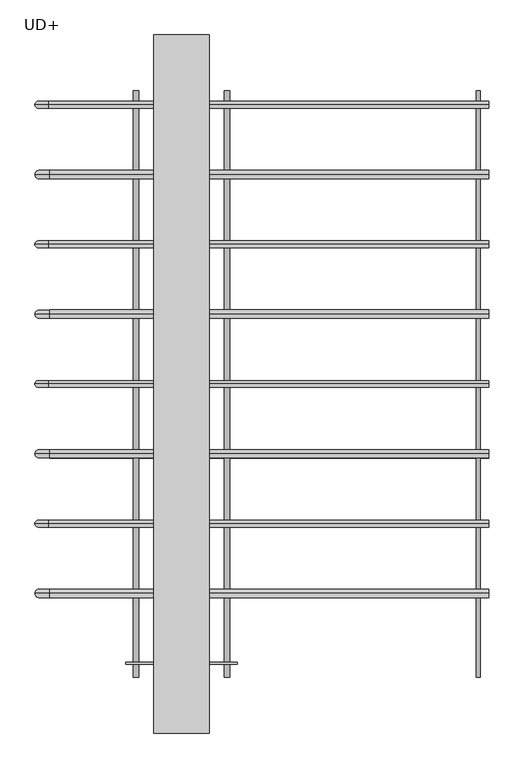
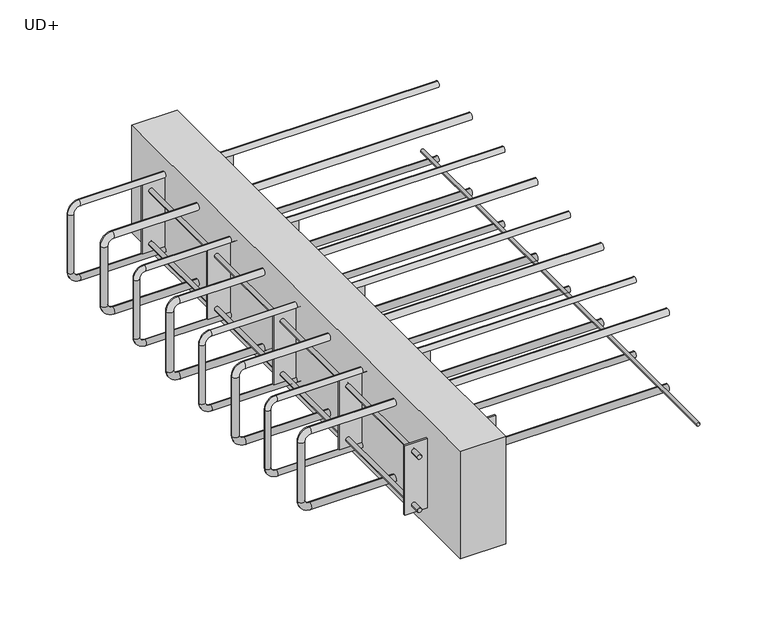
"""IFC4 building model written with IfcOpenShell, lengths in millimetres: proxy geometry, ACINOXplus_Typenreihe_Ux-Ox : UD+."""

from ifc_helpers import new_model, si_unit, point, frame, frame_2d, origin, place, context, project, spatial, polyline, circle_curve, ellipse_curve, trimmed, segment, composite_curve, outline, extrude, source, transform, mapped, element, save
from ifc_brep_helpers import plane_surface, cylinder_surface, revolved_surface, advanced_brep


def ud_d1303a2f(model_context):
    return source(origin(), model_context, "Body", "SolidModel", [
        advanced_brep(
        [(440.0, 100.0, -23.5), (440.0, 100.0, -35.5), (-189.0, 100.0, -23.5), (-189.0, 100.0, -35.5), (-198.0, 100.0, -44.5), (-210.0, 100.0, -44.5), (-210.0, 100.0, -155.5), (-198.0, 100.0, -155.5), (-189.0, 100.0, -164.5), (-189.0, 100.0, -176.5), (440.0, 100.0, -176.5), (440.0, 100.0, -164.5)],
        [
            (0, 1, circle_curve(frame((440.0, 100.0, -29.5), z_axis=(1.0, 0.0, 0.0), x_axis=(0.0, 0.0, -1.0)), 6.0)),
            (1, 0, circle_curve(frame((440.0, 100.0, -29.5), z_axis=(1.0, 0.0, 0.0), x_axis=(0.0, 0.0, -1.0)), 6.0)),
            (0, 2),
            (2, 3, circle_curve(frame((-189.0, 100.0, -29.5), z_axis=(1.0, 0.0, 0.0), x_axis=(0.0, 0.0, -1.0)), 6.0)),
            (3, 1),
            (3, 2, circle_curve(frame((-189.0, 100.0, -29.5), z_axis=(1.0, 0.0, 0.0), x_axis=(0.0, 0.0, -1.0)), 6.0)),
            (4, 3, circle_curve(frame((-189.0, 100.0, -44.5), z_axis=(0.0, 1.0, 0.0), x_axis=(0.0, 0.0, 1.0)), 9.0)),
            (2, 5, circle_curve(frame((-189.0, 100.0, -44.5), z_axis=(0.0, -1.0, 0.0), x_axis=(0.0, 0.0, 1.0)), 21.0)),
            (5, 4, circle_curve(frame((-204.0, 100.0, -44.5), z_axis=(0.0, 0.0, 1.0), x_axis=(1.0, 0.0, 0.0)), 6.0)),
            (4, 5, circle_curve(frame((-204.0, 100.0, -44.5), z_axis=(0.0, 0.0, 1.0), x_axis=(1.0, 0.0, 0.0)), 6.0)),
            (5, 6),
            (6, 7, circle_curve(frame((-204.0, 100.0, -155.5), z_axis=(0.0, 0.0, 1.0), x_axis=(1.0, 0.0, 0.0)), 6.0)),
            (7, 4),
            (7, 6, circle_curve(frame((-204.0, 100.0, -155.5), z_axis=(0.0, 0.0, 1.0), x_axis=(1.0, 0.0, 0.0)), 6.0)),
            (8, 7, circle_curve(frame((-189.0, 100.0, -155.5), z_axis=(0.0, 1.0, 0.0), x_axis=(-1.0, 0.0, 0.0)), 9.0)),
            (6, 9, circle_curve(frame((-189.0, 100.0, -155.5), z_axis=(0.0, -1.0, 0.0), x_axis=(-1.0, 0.0, 0.0)), 21.0)),
            (9, 8, circle_curve(frame((-189.0, 100.0, -170.5), z_axis=(-1.0, 0.0, 0.0), x_axis=(0.0, 0.0, 1.0)), 6.0)),
            (8, 9, circle_curve(frame((-189.0, 100.0, -170.5), z_axis=(-1.0, 0.0, 0.0), x_axis=(0.0, 0.0, 1.0)), 6.0)),
            (10, 11, circle_curve(frame((440.0, 100.0, -170.5), z_axis=(1.0, 0.0, 0.0), x_axis=(0.0, 0.0, 1.0)), 6.0)),
            (11, 10, circle_curve(frame((440.0, 100.0, -170.5), z_axis=(1.0, 0.0, 0.0), x_axis=(0.0, 0.0, 1.0)), 6.0)),
            (9, 10),
            (11, 8),
        ],
        [
            plane_surface(frame((440.0, 100.0, -29.5), z_axis=(1.0, 0.0, 0.0), x_axis=(0.0, -1.0, 0.0))),
            cylinder_surface(frame((440.0, 100.0, -29.5), z_axis=(1.0, 0.0, 0.0), x_axis=(0.0, 0.0, -1.0)), 6.0),
            revolved_surface(trimmed(ellipse_curve(frame((-189.0, 100.0, -29.5), z_axis=(1.0, 0.0, 0.0), x_axis=(0.0, 0.0, -1.0)), 6.0, 6.0), [point((-189.0, 100.0, -23.5))], [point((-189.0, 100.0, -35.5))], True, "CARTESIAN"), (-189.0, 100.0, -44.5), (0.0, -1.0, 0.0)),
            revolved_surface(trimmed(ellipse_curve(frame((-189.0, 100.0, -29.5), z_axis=(1.0, 0.0, 0.0), x_axis=(0.0, 0.0, -1.0)), 6.0, 6.0), [point((-189.0, 100.0, -35.5))], [point((-189.0, 100.0, -23.5))], True, "CARTESIAN"), (-189.0, 100.0, -44.5), (0.0, -1.0, 0.0)),
            cylinder_surface(frame((-204.0, 100.0, -44.5), z_axis=(0.0, 0.0, 1.0), x_axis=(1.0, 0.0, 0.0)), 6.0),
            revolved_surface(trimmed(ellipse_curve(frame((-204.0, 100.0, -155.5), z_axis=(0.0, 0.0, 1.0), x_axis=(1.0, 0.0, 0.0)), 6.0, 6.0), [point((-210.0, 100.0, -155.5))], [point((-198.0, 100.0, -155.5))], True, "CARTESIAN"), (-189.0, 100.0, -155.5), (0.0, -1.0, 0.0)),
            revolved_surface(trimmed(ellipse_curve(frame((-204.0, 100.0, -155.5), z_axis=(0.0, 0.0, 1.0), x_axis=(1.0, 0.0, 0.0)), 6.0, 6.0), [point((-198.0, 100.0, -155.5))], [point((-210.0, 100.0, -155.5))], True, "CARTESIAN"), (-189.0, 100.0, -155.5), (0.0, -1.0, 0.0)),
            plane_surface(frame((440.0, 100.0, -170.5), z_axis=(1.0, 0.0, 0.0), x_axis=(0.0, -1.0, 0.0))),
            cylinder_surface(frame((-189.0, 100.0, -170.5), z_axis=(-1.0, 0.0, 0.0), x_axis=(0.0, 0.0, 1.0)), 6.0),
        ],
        [
            (0, [[1, 2]]),
            (1, [[-1, 3, 4, 5]]),
            (1, [[-2, -5, 6, -3]]),
            (2, [[7, -4, 8, 9]]),
            (3, [[-8, -6, -7, 10]]),
            (4, [[-9, 11, 12, 13]]),
            (4, [[-10, -13, 14, -11]]),
            (5, [[15, -12, 16, 17]]),
            (6, [[-16, -14, -15, 18]]),
            (7, [[19, 20]]),
            (8, [[-17, 21, -20, 22]]),
            (8, [[-18, -22, -19, -21]]),
        ],
    ),
        advanced_brep(
        [(440.0, -100.0, -23.5), (440.0, -100.0, -35.5), (-189.0, -100.0, -23.5), (-189.0, -100.0, -35.5), (-198.0, -100.0, -44.5), (-210.0, -100.0, -44.5), (-210.0, -100.0, -155.5), (-198.0, -100.0, -155.5), (-189.0, -100.0, -164.5), (-189.0, -100.0, -176.5), (440.0, -100.0, -176.5), (440.0, -100.0, -164.5)],
        [
            (0, 1, circle_curve(frame((440.0, -100.0, -29.5), z_axis=(1.0, 0.0, 0.0), x_axis=(0.0, 0.0, -1.0)), 6.0)),
            (1, 0, circle_curve(frame((440.0, -100.0, -29.5), z_axis=(1.0, 0.0, 0.0), x_axis=(0.0, 0.0, -1.0)), 6.0)),
            (0, 2),
            (2, 3, circle_curve(frame((-189.0, -100.0, -29.5), z_axis=(1.0, 0.0, 0.0), x_axis=(0.0, 0.0, -1.0)), 6.0)),
            (3, 1),
            (3, 2, circle_curve(frame((-189.0, -100.0, -29.5), z_axis=(1.0, 0.0, 0.0), x_axis=(0.0, 0.0, -1.0)), 6.0)),
            (4, 3, circle_curve(frame((-189.0, -100.0, -44.5), z_axis=(0.0, 1.0, 0.0), x_axis=(0.0, 0.0, 1.0)), 9.0)),
            (2, 5, circle_curve(frame((-189.0, -100.0, -44.5), z_axis=(0.0, -1.0, 0.0), x_axis=(0.0, 0.0, 1.0)), 21.0)),
            (5, 4, circle_curve(frame((-204.0, -100.0, -44.5), z_axis=(0.0, 0.0, 1.0), x_axis=(1.0, 0.0, 0.0)), 6.0)),
            (4, 5, circle_curve(frame((-204.0, -100.0, -44.5), z_axis=(0.0, 0.0, 1.0), x_axis=(1.0, 0.0, 0.0)), 6.0)),
            (5, 6),
            (6, 7, circle_curve(frame((-204.0, -100.0, -155.5), z_axis=(0.0, 0.0, 1.0), x_axis=(1.0, 0.0, 0.0)), 6.0)),
            (7, 4),
            (7, 6, circle_curve(frame((-204.0, -100.0, -155.5), z_axis=(0.0, 0.0, 1.0), x_axis=(1.0, 0.0, 0.0)), 6.0)),
            (8, 7, circle_curve(frame((-189.0, -100.0, -155.5), z_axis=(0.0, 1.0, 0.0), x_axis=(-1.0, 0.0, 0.0)), 9.0)),
            (6, 9, circle_curve(frame((-189.0, -100.0, -155.5), z_axis=(0.0, -1.0, 0.0), x_axis=(-1.0, 0.0, 0.0)), 21.0)),
            (9, 8, circle_curve(frame((-189.0, -100.0, -170.5), z_axis=(-1.0, 0.0, 0.0), x_axis=(0.0, 0.0, 1.0)), 6.0)),
            (8, 9, circle_curve(frame((-189.0, -100.0, -170.5), z_axis=(-1.0, 0.0, 0.0), x_axis=(0.0, 0.0, 1.0)), 6.0)),
            (10, 11, circle_curve(frame((440.0, -100.0, -170.5), z_axis=(1.0, 0.0, 0.0), x_axis=(0.0, 0.0, 1.0)), 6.0)),
            (11, 10, circle_curve(frame((440.0, -100.0, -170.5), z_axis=(1.0, 0.0, 0.0), x_axis=(0.0, 0.0, 1.0)), 6.0)),
            (9, 10),
            (11, 8),
        ],
        [
            plane_surface(frame((440.0, -100.0, -29.5), z_axis=(1.0, 0.0, 0.0), x_axis=(0.0, -1.0, 0.0))),
            cylinder_surface(frame((440.0, -100.0, -29.5), z_axis=(1.0, 0.0, 0.0), x_axis=(0.0, 0.0, -1.0)), 6.0),
            revolved_surface(trimmed(ellipse_curve(frame((-189.0, -100.0, -29.5), z_axis=(1.0, 0.0, 0.0), x_axis=(0.0, 0.0, -1.0)), 6.0, 6.0), [point((-189.0, -100.0, -23.5))], [point((-189.0, -100.0, -35.5))], True, "CARTESIAN"), (-189.0, -100.0, -44.5), (0.0, -1.0, 0.0)),
            revolved_surface(trimmed(ellipse_curve(frame((-189.0, -100.0, -29.5), z_axis=(1.0, 0.0, 0.0), x_axis=(0.0, 0.0, -1.0)), 6.0, 6.0), [point((-189.0, -100.0, -35.5))], [point((-189.0, -100.0, -23.5))], True, "CARTESIAN"), (-189.0, -100.0, -44.5), (0.0, -1.0, 0.0)),
            cylinder_surface(frame((-204.0, -100.0, -44.5), z_axis=(0.0, 0.0, 1.0), x_axis=(1.0, 0.0, 0.0)), 6.0),
            revolved_surface(trimmed(ellipse_curve(frame((-204.0, -100.0, -155.5), z_axis=(0.0, 0.0, 1.0), x_axis=(1.0, 0.0, 0.0)), 6.0, 6.0), [point((-210.0, -100.0, -155.5))], [point((-198.0, -100.0, -155.5))], True, "CARTESIAN"), (-189.0, -100.0, -155.5), (0.0, -1.0, 0.0)),
            revolved_surface(trimmed(ellipse_curve(frame((-204.0, -100.0, -155.5), z_axis=(0.0, 0.0, 1.0), x_axis=(1.0, 0.0, 0.0)), 6.0, 6.0), [point((-198.0, -100.0, -155.5))], [point((-210.0, -100.0, -155.5))], True, "CARTESIAN"), (-189.0, -100.0, -155.5), (0.0, -1.0, 0.0)),
            plane_surface(frame((440.0, -100.0, -170.5), z_axis=(1.0, 0.0, 0.0), x_axis=(0.0, -1.0, 0.0))),
            cylinder_surface(frame((-189.0, -100.0, -170.5), z_axis=(-1.0, 0.0, 0.0), x_axis=(0.0, 0.0, 1.0)), 6.0),
        ],
        [
            (0, [[1, 2]]),
            (1, [[-1, 3, 4, 5]]),
            (1, [[-2, -5, 6, -3]]),
            (2, [[7, -4, 8, 9]]),
            (3, [[-8, -6, -7, 10]]),
            (4, [[-9, 11, 12, 13]]),
            (4, [[-10, -13, 14, -11]]),
            (5, [[15, -12, 16, 17]]),
            (6, [[-16, -14, -15, 18]]),
            (7, [[19, 20]]),
            (8, [[-17, 21, -20, 22]]),
            (8, [[-18, -22, -19, -21]]),
        ],
    ),
        advanced_brep(
        [(440.0, 300.0, -23.5), (440.0, 300.0, -35.5), (-189.0, 300.0, -23.5), (-189.0, 300.0, -35.5), (-198.0, 300.0, -44.5), (-210.0, 300.0, -44.5), (-210.0, 300.0, -155.5), (-198.0, 300.0, -155.5), (-189.0, 300.0, -164.5), (-189.0, 300.0, -176.5), (440.0, 300.0, -176.5), (440.0, 300.0, -164.5)],
        [
            (0, 1, circle_curve(frame((440.0, 300.0, -29.5), z_axis=(1.0, 0.0, 0.0), x_axis=(0.0, 0.0, -1.0)), 6.0)),
            (1, 0, circle_curve(frame((440.0, 300.0, -29.5), z_axis=(1.0, 0.0, 0.0), x_axis=(0.0, 0.0, -1.0)), 6.0)),
            (0, 2),
            (2, 3, circle_curve(frame((-189.0, 300.0, -29.5), z_axis=(1.0, 0.0, 0.0), x_axis=(0.0, 0.0, -1.0)), 6.0)),
            (3, 1),
            (3, 2, circle_curve(frame((-189.0, 300.0, -29.5), z_axis=(1.0, 0.0, 0.0), x_axis=(0.0, 0.0, -1.0)), 6.0)),
            (4, 3, circle_curve(frame((-189.0, 300.0, -44.5), z_axis=(0.0, 1.0, 0.0), x_axis=(0.0, 0.0, 1.0)), 9.0)),
            (2, 5, circle_curve(frame((-189.0, 300.0, -44.5), z_axis=(0.0, -1.0, 0.0), x_axis=(0.0, 0.0, 1.0)), 21.0)),
            (5, 4, circle_curve(frame((-204.0, 300.0, -44.5), z_axis=(0.0, 0.0, 1.0), x_axis=(1.0, 0.0, 0.0)), 6.0)),
            (4, 5, circle_curve(frame((-204.0, 300.0, -44.5), z_axis=(0.0, 0.0, 1.0), x_axis=(1.0, 0.0, 0.0)), 6.0)),
            (5, 6),
            (6, 7, circle_curve(frame((-204.0, 300.0, -155.5), z_axis=(0.0, 0.0, 1.0), x_axis=(1.0, 0.0, 0.0)), 6.0)),
            (7, 4),
            (7, 6, circle_curve(frame((-204.0, 300.0, -155.5), z_axis=(0.0, 0.0, 1.0), x_axis=(1.0, 0.0, 0.0)), 6.0)),
            (8, 7, circle_curve(frame((-189.0, 300.0, -155.5), z_axis=(0.0, 1.0, 0.0), x_axis=(-1.0, 0.0, 0.0)), 9.0)),
            (6, 9, circle_curve(frame((-189.0, 300.0, -155.5), z_axis=(0.0, -1.0, 0.0), x_axis=(-1.0, 0.0, 0.0)), 21.0)),
            (9, 8, circle_curve(frame((-189.0, 300.0, -170.5), z_axis=(-1.0, 0.0, 0.0), x_axis=(0.0, 0.0, 1.0)), 6.0)),
            (8, 9, circle_curve(frame((-189.0, 300.0, -170.5), z_axis=(-1.0, 0.0, 0.0), x_axis=(0.0, 0.0, 1.0)), 6.0)),
            (10, 11, circle_curve(frame((440.0, 300.0, -170.5), z_axis=(1.0, 0.0, 0.0), x_axis=(0.0, 0.0, 1.0)), 6.0)),
            (11, 10, circle_curve(frame((440.0, 300.0, -170.5), z_axis=(1.0, 0.0, 0.0), x_axis=(0.0, 0.0, 1.0)), 6.0)),
            (9, 10),
            (11, 8),
        ],
        [
            plane_surface(frame((440.0, 300.0, -29.5), z_axis=(1.0, 0.0, 0.0), x_axis=(0.0, -1.0, 0.0))),
            cylinder_surface(frame((440.0, 300.0, -29.5), z_axis=(1.0, 0.0, 0.0), x_axis=(0.0, 0.0, -1.0)), 6.0),
            revolved_surface(trimmed(ellipse_curve(frame((-189.0, 300.0, -29.5), z_axis=(1.0, 0.0, 0.0), x_axis=(0.0, 0.0, -1.0)), 6.0, 6.0), [point((-189.0, 300.0, -23.5))], [point((-189.0, 300.0, -35.5))], True, "CARTESIAN"), (-189.0, 300.0, -44.5), (0.0, -1.0, 0.0)),
            revolved_surface(trimmed(ellipse_curve(frame((-189.0, 300.0, -29.5), z_axis=(1.0, 0.0, 0.0), x_axis=(0.0, 0.0, -1.0)), 6.0, 6.0), [point((-189.0, 300.0, -35.5))], [point((-189.0, 300.0, -23.5))], True, "CARTESIAN"), (-189.0, 300.0, -44.5), (0.0, -1.0, 0.0)),
            cylinder_surface(frame((-204.0, 300.0, -44.5), z_axis=(0.0, 0.0, 1.0), x_axis=(1.0, 0.0, 0.0)), 6.0),
            revolved_surface(trimmed(ellipse_curve(frame((-204.0, 300.0, -155.5), z_axis=(0.0, 0.0, 1.0), x_axis=(1.0, 0.0, 0.0)), 6.0, 6.0), [point((-210.0, 300.0, -155.5))], [point((-198.0, 300.0, -155.5))], True, "CARTESIAN"), (-189.0, 300.0, -155.5), (0.0, -1.0, 0.0)),
            revolved_surface(trimmed(ellipse_curve(frame((-204.0, 300.0, -155.5), z_axis=(0.0, 0.0, 1.0), x_axis=(1.0, 0.0, 0.0)), 6.0, 6.0), [point((-198.0, 300.0, -155.5))], [point((-210.0, 300.0, -155.5))], True, "CARTESIAN"), (-189.0, 300.0, -155.5), (0.0, -1.0, 0.0)),
            plane_surface(frame((440.0, 300.0, -170.5), z_axis=(1.0, 0.0, 0.0), x_axis=(0.0, -1.0, 0.0))),
            cylinder_surface(frame((-189.0, 300.0, -170.5), z_axis=(-1.0, 0.0, 0.0), x_axis=(0.0, 0.0, 1.0)), 6.0),
        ],
        [
            (0, [[1, 2]]),
            (1, [[-1, 3, 4, 5]]),
            (1, [[-2, -5, 6, -3]]),
            (2, [[7, -4, 8, 9]]),
            (3, [[-8, -6, -7, 10]]),
            (4, [[-9, 11, 12, 13]]),
            (4, [[-10, -13, 14, -11]]),
            (5, [[15, -12, 16, 17]]),
            (6, [[-16, -14, -15, 18]]),
            (7, [[19, 20]]),
            (8, [[-17, 21, -20, 22]]),
            (8, [[-18, -22, -19, -21]]),
        ],
    ),
        advanced_brep(
        [(440.0, -300.0, -23.5), (440.0, -300.0, -35.5), (-189.0, -300.0, -23.5), (-189.0, -300.0, -35.5), (-198.0, -300.0, -44.5), (-210.0, -300.0, -44.5), (-210.0, -300.0, -155.5), (-198.0, -300.0, -155.5), (-189.0, -300.0, -164.5), (-189.0, -300.0, -176.5), (440.0, -300.0, -176.5), (440.0, -300.0, -164.5)],
        [
            (0, 1, circle_curve(frame((440.0, -300.0, -29.5), z_axis=(1.0, 0.0, 0.0), x_axis=(0.0, 0.0, -1.0)), 6.0)),
            (1, 0, circle_curve(frame((440.0, -300.0, -29.5), z_axis=(1.0, 0.0, 0.0), x_axis=(0.0, 0.0, -1.0)), 6.0)),
            (0, 2),
            (2, 3, circle_curve(frame((-189.0, -300.0, -29.5), z_axis=(1.0, 0.0, 0.0), x_axis=(0.0, 0.0, -1.0)), 6.0)),
            (3, 1),
            (3, 2, circle_curve(frame((-189.0, -300.0, -29.5), z_axis=(1.0, 0.0, 0.0), x_axis=(0.0, 0.0, -1.0)), 6.0)),
            (4, 3, circle_curve(frame((-189.0, -300.0, -44.5), z_axis=(0.0, 1.0, 0.0), x_axis=(0.0, 0.0, 1.0)), 9.0)),
            (2, 5, circle_curve(frame((-189.0, -300.0, -44.5), z_axis=(0.0, -1.0, 0.0), x_axis=(0.0, 0.0, 1.0)), 21.0)),
            (5, 4, circle_curve(frame((-204.0, -300.0, -44.5), z_axis=(0.0, 0.0, 1.0), x_axis=(1.0, 0.0, 0.0)), 6.0)),
            (4, 5, circle_curve(frame((-204.0, -300.0, -44.5), z_axis=(0.0, 0.0, 1.0), x_axis=(1.0, 0.0, 0.0)), 6.0)),
            (5, 6),
            (6, 7, circle_curve(frame((-204.0, -300.0, -155.5), z_axis=(0.0, 0.0, 1.0), x_axis=(1.0, 0.0, 0.0)), 6.0)),
            (7, 4),
            (7, 6, circle_curve(frame((-204.0, -300.0, -155.5), z_axis=(0.0, 0.0, 1.0), x_axis=(1.0, 0.0, 0.0)), 6.0)),
            (8, 7, circle_curve(frame((-189.0, -300.0, -155.5), z_axis=(0.0, 1.0, 0.0), x_axis=(-1.0, 0.0, 0.0)), 9.0)),
            (6, 9, circle_curve(frame((-189.0, -300.0, -155.5), z_axis=(0.0, -1.0, 0.0), x_axis=(-1.0, 0.0, 0.0)), 21.0)),
            (9, 8, circle_curve(frame((-189.0, -300.0, -170.5), z_axis=(-1.0, 0.0, 0.0), x_axis=(0.0, 0.0, 1.0)), 6.0)),
            (8, 9, circle_curve(frame((-189.0, -300.0, -170.5), z_axis=(-1.0, 0.0, 0.0), x_axis=(0.0, 0.0, 1.0)), 6.0)),
            (10, 11, circle_curve(frame((440.0, -300.0, -170.5), z_axis=(1.0, 0.0, 0.0), x_axis=(0.0, 0.0, 1.0)), 6.0)),
            (11, 10, circle_curve(frame((440.0, -300.0, -170.5), z_axis=(1.0, 0.0, 0.0), x_axis=(0.0, 0.0, 1.0)), 6.0)),
            (9, 10),
            (11, 8),
        ],
        [
            plane_surface(frame((440.0, -300.0, -29.5), z_axis=(1.0, 0.0, 0.0), x_axis=(0.0, -1.0, 0.0))),
            cylinder_surface(frame((440.0, -300.0, -29.5), z_axis=(1.0, 0.0, 0.0), x_axis=(0.0, 0.0, -1.0)), 6.0),
            revolved_surface(trimmed(ellipse_curve(frame((-189.0, -300.0, -29.5), z_axis=(1.0, 0.0, 0.0), x_axis=(0.0, 0.0, -1.0)), 6.0, 6.0), [point((-189.0, -300.0, -23.5))], [point((-189.0, -300.0, -35.5))], True, "CARTESIAN"), (-189.0, -300.0, -44.5), (0.0, -1.0, 0.0)),
            revolved_surface(trimmed(ellipse_curve(frame((-189.0, -300.0, -29.5), z_axis=(1.0, 0.0, 0.0), x_axis=(0.0, 0.0, -1.0)), 6.0, 6.0), [point((-189.0, -300.0, -35.5))], [point((-189.0, -300.0, -23.5))], True, "CARTESIAN"), (-189.0, -300.0, -44.5), (0.0, -1.0, 0.0)),
            cylinder_surface(frame((-204.0, -300.0, -44.5), z_axis=(0.0, 0.0, 1.0), x_axis=(1.0, 0.0, 0.0)), 6.0),
            revolved_surface(trimmed(ellipse_curve(frame((-204.0, -300.0, -155.5), z_axis=(0.0, 0.0, 1.0), x_axis=(1.0, 0.0, 0.0)), 6.0, 6.0), [point((-210.0, -300.0, -155.5))], [point((-198.0, -300.0, -155.5))], True, "CARTESIAN"), (-189.0, -300.0, -155.5), (0.0, -1.0, 0.0)),
            revolved_surface(trimmed(ellipse_curve(frame((-204.0, -300.0, -155.5), z_axis=(0.0, 0.0, 1.0), x_axis=(1.0, 0.0, 0.0)), 6.0, 6.0), [point((-198.0, -300.0, -155.5))], [point((-210.0, -300.0, -155.5))], True, "CARTESIAN"), (-189.0, -300.0, -155.5), (0.0, -1.0, 0.0)),
            plane_surface(frame((440.0, -300.0, -170.5), z_axis=(1.0, 0.0, 0.0), x_axis=(0.0, -1.0, 0.0))),
            cylinder_surface(frame((-189.0, -300.0, -170.5), z_axis=(-1.0, 0.0, 0.0), x_axis=(0.0, 0.0, 1.0)), 6.0),
        ],
        [
            (0, [[1, 2]]),
            (1, [[-1, 3, 4, 5]]),
            (1, [[-2, -5, 6, -3]]),
            (2, [[7, -4, 8, 9]]),
            (3, [[-8, -6, -7, 10]]),
            (4, [[-9, 11, 12, 13]]),
            (4, [[-10, -13, 14, -11]]),
            (5, [[15, -12, 16, 17]]),
            (6, [[-16, -14, -15, 18]]),
            (7, [[19, 20]]),
            (8, [[-17, 21, -20, 22]]),
            (8, [[-18, -22, -19, -21]]),
        ],
    ),
        extrude(outline(composite_curve([segment(trimmed(circle_curve(frame_2d((-161.5, 425.0)), 3.0), [point((-161.5, 428.0))], [point((-161.5, 422.0))], False, "CARTESIAN"), True, "CONTINUOUS"), segment(trimmed(circle_curve(frame_2d((-161.5, 425.0)), 3.0), [point((-161.5, 422.0))], [point((-161.5, 428.0))], False, "CARTESIAN"), True, "CONTINUOUS")], self_intersect=False)), frame((0.0, -420.0, 0.0), z_axis=(0.0, 1.0, 0.0), x_axis=(0.0, 0.0, 1.0)), (0.0, 0.0, 1.0), 840.0),
        extrude(outline(polyline([(40.0, 500.0), (40.0, -500.0), (-40.0, -500.0), (-40.0, 500.0), (40.0, 500.0)])), frame((0.0, 0.0, -200.0), z_axis=(0.0, 0.0, 1.0), x_axis=(1.0, 0.0, 0.0)), (0.0, 0.0, 1.0), 200.0),
        extrude(outline(polyline([(80.0, -198.5), (80.0, -201.5), (-80.0, -201.5), (-80.0, -198.5), (80.0, -198.5)])), frame((0.0, 0.0, -164.5), z_axis=(0.0, 0.0, 1.0), x_axis=(1.0, 0.0, 0.0)), (0.0, 0.0, 1.0), 129.0),
        extrude(outline(polyline([(80.0, 1.5), (80.0, -1.5), (-80.0, -1.5), (-80.0, 1.5), (80.0, 1.5)])), frame((0.0, 0.0, -164.5), z_axis=(0.0, 0.0, 1.0), x_axis=(1.0, 0.0, 0.0)), (0.0, 0.0, 1.0), 129.0),
        extrude(outline(polyline([(80.0, 201.5), (80.0, 198.5), (-80.0, 198.5), (-80.0, 201.5), (80.0, 201.5)])), frame((0.0, 0.0, -164.5), z_axis=(0.0, 0.0, 1.0), x_axis=(1.0, 0.0, 0.0)), (0.0, 0.0, 1.0), 129.0),
        extrude(outline(polyline([(80.0, -398.5), (80.0, -401.5), (-80.0, -401.5), (-80.0, -398.5), (80.0, -398.5)])), frame((0.0, 0.0, -164.5), z_axis=(0.0, 0.0, 1.0), x_axis=(1.0, 0.0, 0.0)), (0.0, 0.0, 1.0), 129.0),
        extrude(outline(polyline([(80.0, 401.5), (80.0, 398.5), (-80.0, 398.5), (-80.0, 401.5), (80.0, 401.5)])), frame((0.0, 0.0, -164.5), z_axis=(0.0, 0.0, 1.0), x_axis=(1.0, 0.0, 0.0)), (0.0, 0.0, 1.0), 129.0),
        extrude(outline(composite_curve([segment(trimmed(circle_curve(frame_2d((-149.5, -65.0)), 4.0), [point((-149.5, -61.0))], [point((-149.5, -69.0))], False, "CARTESIAN"), True, "CONTINUOUS"), segment(trimmed(circle_curve(frame_2d((-149.5, -65.0)), 4.0), [point((-149.5, -69.0))], [point((-149.5, -61.0))], False, "CARTESIAN"), True, "CONTINUOUS")], self_intersect=False)), frame((0.0, -420.0, 0.0), z_axis=(0.0, 1.0, 0.0), x_axis=(0.0, 0.0, 1.0)), (0.0, 0.0, 1.0), 18.5),
        extrude(outline(composite_curve([segment(trimmed(circle_curve(frame_2d((-149.5, -65.0)), 4.0), [point((-149.5, -69.0))], [point((-149.5, -61.0))], False, "CARTESIAN"), True, "CONTINUOUS"), segment(trimmed(circle_curve(frame_2d((-149.5, -65.0)), 4.0), [point((-149.5, -61.0))], [point((-149.5, -69.0))], False, "CARTESIAN"), True, "CONTINUOUS")], self_intersect=False)), frame((0.0, -398.5, 0.0), z_axis=(0.0, 1.0, 0.0), x_axis=(0.0, 0.0, 1.0)), (0.0, 0.0, 1.0), 597.0),
        extrude(outline(composite_curve([segment(trimmed(circle_curve(frame_2d((-149.5, -65.0)), 4.0), [point((-149.5, -69.0))], [point((-149.5, -61.0))], False, "CARTESIAN"), True, "CONTINUOUS"), segment(trimmed(circle_curve(frame_2d((-149.5, -65.0)), 4.0), [point((-149.5, -61.0))], [point((-149.5, -69.0))], False, "CARTESIAN"), True, "CONTINUOUS")], self_intersect=False)), frame((0.0, 401.5, 0.0), z_axis=(0.0, 1.0, 0.0), x_axis=(0.0, 0.0, 1.0)), (0.0, 0.0, 1.0), 18.5),
        extrude(outline(composite_curve([segment(trimmed(circle_curve(frame_2d((-149.5, -65.0)), 4.0), [point((-149.5, -69.0))], [point((-149.5, -61.0))], False, "CARTESIAN"), True, "CONTINUOUS"), segment(trimmed(circle_curve(frame_2d((-149.5, -65.0)), 4.0), [point((-149.5, -61.0))], [point((-149.5, -69.0))], False, "CARTESIAN"), True, "CONTINUOUS")], self_intersect=False)), frame((0.0, 201.5, 0.0), z_axis=(0.0, 1.0, 0.0), x_axis=(0.0, 0.0, 1.0)), (0.0, 0.0, 1.0), 197.0),
        extrude(outline(composite_curve([segment(trimmed(circle_curve(frame_2d((-149.5, 65.0)), 4.0), [point((-149.5, 69.0))], [point((-149.5, 61.0))], False, "CARTESIAN"), True, "CONTINUOUS"), segment(trimmed(circle_curve(frame_2d((-149.5, 65.0)), 4.0), [point((-149.5, 61.0))], [point((-149.5, 69.0))], False, "CARTESIAN"), True, "CONTINUOUS")], self_intersect=False)), frame((0.0, -420.0, 0.0), z_axis=(0.0, 1.0, 0.0), x_axis=(0.0, 0.0, 1.0)), (0.0, 0.0, 1.0), 18.5),
        extrude(outline(composite_curve([segment(trimmed(circle_curve(frame_2d((-149.5, 65.0)), 4.0), [point((-149.5, 61.0))], [point((-149.5, 69.0))], False, "CARTESIAN"), True, "CONTINUOUS"), segment(trimmed(circle_curve(frame_2d((-149.5, 65.0)), 4.0), [point((-149.5, 69.0))], [point((-149.5, 61.0))], False, "CARTESIAN"), True, "CONTINUOUS")], self_intersect=False)), frame((0.0, -398.5, 0.0), z_axis=(0.0, 1.0, 0.0), x_axis=(0.0, 0.0, 1.0)), (0.0, 0.0, 1.0), 597.0),
        extrude(outline(composite_curve([segment(trimmed(circle_curve(frame_2d((-149.5, 65.0)), 4.0), [point((-149.5, 61.0))], [point((-149.5, 69.0))], False, "CARTESIAN"), True, "CONTINUOUS"), segment(trimmed(circle_curve(frame_2d((-149.5, 65.0)), 4.0), [point((-149.5, 69.0))], [point((-149.5, 61.0))], False, "CARTESIAN"), True, "CONTINUOUS")], self_intersect=False)), frame((0.0, 401.5, 0.0), z_axis=(0.0, 1.0, 0.0), x_axis=(0.0, 0.0, 1.0)), (0.0, 0.0, 1.0), 18.5),
        extrude(outline(composite_curve([segment(trimmed(circle_curve(frame_2d((-149.5, 65.0)), 4.0), [point((-149.5, 61.0))], [point((-149.5, 69.0))], False, "CARTESIAN"), True, "CONTINUOUS"), segment(trimmed(circle_curve(frame_2d((-149.5, 65.0)), 4.0), [point((-149.5, 69.0))], [point((-149.5, 61.0))], False, "CARTESIAN"), True, "CONTINUOUS")], self_intersect=False)), frame((0.0, 201.5, 0.0), z_axis=(0.0, 1.0, 0.0), x_axis=(0.0, 0.0, 1.0)), (0.0, 0.0, 1.0), 197.0),
        extrude(outline(composite_curve([segment(trimmed(circle_curve(frame_2d((-50.5, -65.0)), 4.0), [point((-50.5, -69.0))], [point((-50.5, -61.0))], False, "CARTESIAN"), True, "CONTINUOUS"), segment(trimmed(circle_curve(frame_2d((-50.5, -65.0)), 4.0), [point((-50.5, -61.0))], [point((-50.5, -69.0))], False, "CARTESIAN"), True, "CONTINUOUS")], self_intersect=False)), frame((0.0, 401.5, 0.0), z_axis=(0.0, 1.0, 0.0), x_axis=(0.0, 0.0, 1.0)), (0.0, 0.0, 1.0), 18.5),
        extrude(outline(composite_curve([segment(trimmed(circle_curve(frame_2d((-50.5, -65.0)), 4.0), [point((-50.5, -61.0))], [point((-50.5, -69.0))], False, "CARTESIAN"), True, "CONTINUOUS"), segment(trimmed(circle_curve(frame_2d((-50.5, -65.0)), 4.0), [point((-50.5, -69.0))], [point((-50.5, -61.0))], False, "CARTESIAN"), True, "CONTINUOUS")], self_intersect=False)), frame((0.0, -420.0, 0.0), z_axis=(0.0, 1.0, 0.0), x_axis=(0.0, 0.0, 1.0)), (0.0, 0.0, 1.0), 18.5),
        extrude(outline(composite_curve([segment(trimmed(circle_curve(frame_2d((-50.5, -65.0)), 4.0), [point((-50.5, -69.0))], [point((-50.5, -61.0))], False, "CARTESIAN"), True, "CONTINUOUS"), segment(trimmed(circle_curve(frame_2d((-50.5, -65.0)), 4.0), [point((-50.5, -61.0))], [point((-50.5, -69.0))], False, "CARTESIAN"), True, "CONTINUOUS")], self_intersect=False)), frame((0.0, -398.5, 0.0), z_axis=(0.0, 1.0, 0.0), x_axis=(0.0, 0.0, 1.0)), (0.0, 0.0, 1.0), 597.0),
        extrude(outline(composite_curve([segment(trimmed(circle_curve(frame_2d((-50.5, -65.0)), 4.0), [point((-50.5, -69.0))], [point((-50.5, -61.0))], False, "CARTESIAN"), True, "CONTINUOUS"), segment(trimmed(circle_curve(frame_2d((-50.5, -65.0)), 4.0), [point((-50.5, -61.0))], [point((-50.5, -69.0))], False, "CARTESIAN"), True, "CONTINUOUS")], self_intersect=False)), frame((0.0, 201.5, 0.0), z_axis=(0.0, 1.0, 0.0), x_axis=(0.0, 0.0, 1.0)), (0.0, 0.0, 1.0), 197.0),
        extrude(outline(composite_curve([segment(trimmed(circle_curve(frame_2d((-50.5, 65.0)), 4.0), [point((-50.5, 61.0))], [point((-50.5, 69.0))], False, "CARTESIAN"), True, "CONTINUOUS"), segment(trimmed(circle_curve(frame_2d((-50.5, 65.0)), 4.0), [point((-50.5, 69.0))], [point((-50.5, 61.0))], False, "CARTESIAN"), True, "CONTINUOUS")], self_intersect=False)), frame((0.0, 401.5, 0.0), z_axis=(0.0, 1.0, 0.0), x_axis=(0.0, 0.0, 1.0)), (0.0, 0.0, 1.0), 18.5),
        extrude(outline(composite_curve([segment(trimmed(circle_curve(frame_2d((-50.5, 65.0)), 4.0), [point((-50.5, 69.0))], [point((-50.5, 61.0))], False, "CARTESIAN"), True, "CONTINUOUS"), segment(trimmed(circle_curve(frame_2d((-50.5, 65.0)), 4.0), [point((-50.5, 61.0))], [point((-50.5, 69.0))], False, "CARTESIAN"), True, "CONTINUOUS")], self_intersect=False)), frame((0.0, -420.0, 0.0), z_axis=(0.0, 1.0, 0.0), x_axis=(0.0, 0.0, 1.0)), (0.0, 0.0, 1.0), 18.5),
        extrude(outline(composite_curve([segment(trimmed(circle_curve(frame_2d((-50.5, 65.0)), 4.0), [point((-50.5, 61.0))], [point((-50.5, 69.0))], False, "CARTESIAN"), True, "CONTINUOUS"), segment(trimmed(circle_curve(frame_2d((-50.5, 65.0)), 4.0), [point((-50.5, 69.0))], [point((-50.5, 61.0))], False, "CARTESIAN"), True, "CONTINUOUS")], self_intersect=False)), frame((0.0, -398.5, 0.0), z_axis=(0.0, 1.0, 0.0), x_axis=(0.0, 0.0, 1.0)), (0.0, 0.0, 1.0), 597.0),
        extrude(outline(composite_curve([segment(trimmed(circle_curve(frame_2d((-50.5, 65.0)), 4.0), [point((-50.5, 61.0))], [point((-50.5, 69.0))], False, "CARTESIAN"), True, "CONTINUOUS"), segment(trimmed(circle_curve(frame_2d((-50.5, 65.0)), 4.0), [point((-50.5, 69.0))], [point((-50.5, 61.0))], False, "CARTESIAN"), True, "CONTINUOUS")], self_intersect=False)), frame((0.0, 201.5, 0.0), z_axis=(0.0, 1.0, 0.0), x_axis=(0.0, 0.0, 1.0)), (0.0, 0.0, 1.0), 197.0),
        advanced_brep(
        [(440.0, 200.0, -25.5), (440.0, 200.0, -35.5), (-190.0, 200.0, -25.5), (-190.0, 200.0, -35.5), (-200.0, 200.0, -45.5), (-210.0, 200.0, -45.5), (-210.0, 200.0, -154.5), (-200.0, 200.0, -154.5), (-190.0, 200.0, -164.5), (-190.0, 200.0, -174.5), (440.0, 200.0, -174.5), (440.0, 200.0, -164.5)],
        [
            (0, 1, circle_curve(frame((440.0, 200.0, -30.5), z_axis=(1.0, 0.0, 0.0), x_axis=(0.0, 0.0, -1.0)), 5.0)),
            (1, 0, circle_curve(frame((440.0, 200.0, -30.5), z_axis=(1.0, 0.0, 0.0), x_axis=(0.0, 0.0, -1.0)), 5.0)),
            (0, 2),
            (2, 3, circle_curve(frame((-190.0, 200.0, -30.5), z_axis=(1.0, 0.0, 0.0), x_axis=(0.0, 0.0, -1.0)), 5.0)),
            (3, 1),
            (3, 2, circle_curve(frame((-190.0, 200.0, -30.5), z_axis=(1.0, 0.0, 0.0), x_axis=(0.0, 0.0, -1.0)), 5.0)),
            (4, 3, circle_curve(frame((-190.0, 200.0, -45.5), z_axis=(0.0, 1.0, 0.0), x_axis=(0.0, 0.0, 1.0)), 10.0)),
            (2, 5, circle_curve(frame((-190.0, 200.0, -45.5), z_axis=(0.0, -1.0, 0.0), x_axis=(0.0, 0.0, 1.0)), 20.0)),
            (5, 4, circle_curve(frame((-205.0, 200.0, -45.5), z_axis=(0.0, 0.0, 1.0), x_axis=(1.0, 0.0, 0.0)), 5.0)),
            (4, 5, circle_curve(frame((-205.0, 200.0, -45.5), z_axis=(0.0, 0.0, 1.0), x_axis=(1.0, 0.0, 0.0)), 5.0)),
            (5, 6),
            (6, 7, circle_curve(frame((-205.0, 200.0, -154.5), z_axis=(0.0, 0.0, 1.0), x_axis=(1.0, 0.0, 0.0)), 5.0)),
            (7, 4),
            (7, 6, circle_curve(frame((-205.0, 200.0, -154.5), z_axis=(0.0, 0.0, 1.0), x_axis=(1.0, 0.0, 0.0)), 5.0)),
            (8, 7, circle_curve(frame((-190.0, 200.0, -154.5), z_axis=(0.0, 1.0, 0.0), x_axis=(-1.0, 0.0, 0.0)), 10.0)),
            (6, 9, circle_curve(frame((-190.0, 200.0, -154.5), z_axis=(0.0, -1.0, 0.0), x_axis=(-1.0, 0.0, 0.0)), 20.0)),
            (9, 8, circle_curve(frame((-190.0, 200.0, -169.5), z_axis=(-1.0, 0.0, 0.0), x_axis=(0.0, 0.0, 1.0)), 5.0)),
            (8, 9, circle_curve(frame((-190.0, 200.0, -169.5), z_axis=(-1.0, 0.0, 0.0), x_axis=(0.0, 0.0, 1.0)), 5.0)),
            (10, 11, circle_curve(frame((440.0, 200.0, -169.5), z_axis=(1.0, 0.0, 0.0), x_axis=(0.0, 0.0, 1.0)), 5.0)),
            (11, 10, circle_curve(frame((440.0, 200.0, -169.5), z_axis=(1.0, 0.0, 0.0), x_axis=(0.0, 0.0, 1.0)), 5.0)),
            (9, 10),
            (11, 8),
        ],
        [
            plane_surface(frame((440.0, 200.0, -30.5), z_axis=(1.0, 0.0, 0.0), x_axis=(0.0, -1.0, 0.0))),
            cylinder_surface(frame((440.0, 200.0, -30.5), z_axis=(1.0, 0.0, 0.0), x_axis=(0.0, 0.0, -1.0)), 5.0),
            revolved_surface(trimmed(ellipse_curve(frame((-190.0, 200.0, -30.5), z_axis=(1.0, 0.0, 0.0), x_axis=(0.0, 0.0, -1.0)), 5.0, 5.0), [point((-190.0, 200.0, -25.5))], [point((-190.0, 200.0, -35.5))], True, "CARTESIAN"), (-190.0, 200.0, -45.5), (0.0, -1.0, 0.0)),
            revolved_surface(trimmed(ellipse_curve(frame((-190.0, 200.0, -30.5), z_axis=(1.0, 0.0, 0.0), x_axis=(0.0, 0.0, -1.0)), 5.0, 5.0), [point((-190.0, 200.0, -35.5))], [point((-190.0, 200.0, -25.5))], True, "CARTESIAN"), (-190.0, 200.0, -45.5), (0.0, -1.0, 0.0)),
            cylinder_surface(frame((-205.0, 200.0, -45.5), z_axis=(0.0, 0.0, 1.0), x_axis=(1.0, 0.0, 0.0)), 5.0),
            revolved_surface(trimmed(ellipse_curve(frame((-205.0, 200.0, -154.5), z_axis=(0.0, 0.0, 1.0), x_axis=(1.0, 0.0, 0.0)), 5.0, 5.0), [point((-210.0, 200.0, -154.5))], [point((-200.0, 200.0, -154.5))], True, "CARTESIAN"), (-190.0, 200.0, -154.5), (0.0, -1.0, 0.0)),
            revolved_surface(trimmed(ellipse_curve(frame((-205.0, 200.0, -154.5), z_axis=(0.0, 0.0, 1.0), x_axis=(1.0, 0.0, 0.0)), 5.0, 5.0), [point((-200.0, 200.0, -154.5))], [point((-210.0, 200.0, -154.5))], True, "CARTESIAN"), (-190.0, 200.0, -154.5), (0.0, -1.0, 0.0)),
            plane_surface(frame((440.0, 200.0, -169.5), z_axis=(1.0, 0.0, 0.0), x_axis=(0.0, -1.0, 0.0))),
            cylinder_surface(frame((-190.0, 200.0, -169.5), z_axis=(-1.0, 0.0, 0.0), x_axis=(0.0, 0.0, 1.0)), 5.0),
        ],
        [
            (0, [[1, 2]]),
            (1, [[-1, 3, 4, 5]]),
            (1, [[-2, -5, 6, -3]]),
            (2, [[7, -4, 8, 9]]),
            (3, [[-8, -6, -7, 10]]),
            (4, [[-9, 11, 12, 13]]),
            (4, [[-10, -13, 14, -11]]),
            (5, [[15, -12, 16, 17]]),
            (6, [[-16, -14, -15, 18]]),
            (7, [[19, 20]]),
            (8, [[-17, 21, -20, 22]]),
            (8, [[-18, -22, -19, -21]]),
        ],
    ),
        advanced_brep(
        [(440.0, 0.0, -25.5), (440.0, 0.0, -35.5), (-190.0, 0.0, -25.5), (-190.0, 0.0, -35.5), (-200.0, 0.0, -45.5), (-210.0, 0.0, -45.5), (-210.0, 0.0, -154.5), (-200.0, 0.0, -154.5), (-190.0, 0.0, -164.5), (-190.0, 0.0, -174.5), (440.0, 0.0, -174.5), (440.0, 0.0, -164.5)],
        [
            (0, 1, circle_curve(frame((440.0, 0.0, -30.5), z_axis=(1.0, 0.0, 0.0), x_axis=(0.0, 0.0, -1.0)), 5.0)),
            (1, 0, circle_curve(frame((440.0, 0.0, -30.5), z_axis=(1.0, 0.0, 0.0), x_axis=(0.0, 0.0, -1.0)), 5.0)),
            (0, 2),
            (2, 3, circle_curve(frame((-190.0, 0.0, -30.5), z_axis=(1.0, 0.0, 0.0), x_axis=(0.0, 0.0, -1.0)), 5.0)),
            (3, 1),
            (3, 2, circle_curve(frame((-190.0, 0.0, -30.5), z_axis=(1.0, 0.0, 0.0), x_axis=(0.0, 0.0, -1.0)), 5.0)),
            (4, 3, circle_curve(frame((-190.0, 0.0, -45.5), z_axis=(0.0, 1.0, 0.0), x_axis=(0.0, 0.0, 1.0)), 10.0)),
            (2, 5, circle_curve(frame((-190.0, 0.0, -45.5), z_axis=(0.0, -1.0, 0.0), x_axis=(0.0, 0.0, 1.0)), 20.0)),
            (5, 4, circle_curve(frame((-205.0, 0.0, -45.5), z_axis=(0.0, 0.0, 1.0), x_axis=(1.0, 0.0, 0.0)), 5.0)),
            (4, 5, circle_curve(frame((-205.0, 0.0, -45.5), z_axis=(0.0, 0.0, 1.0), x_axis=(1.0, 0.0, 0.0)), 5.0)),
            (5, 6),
            (6, 7, circle_curve(frame((-205.0, 0.0, -154.5), z_axis=(0.0, 0.0, 1.0), x_axis=(1.0, 0.0, 0.0)), 5.0)),
            (7, 4),
            (7, 6, circle_curve(frame((-205.0, 0.0, -154.5), z_axis=(0.0, 0.0, 1.0), x_axis=(1.0, 0.0, 0.0)), 5.0)),
            (8, 7, circle_curve(frame((-190.0, 0.0, -154.5), z_axis=(0.0, 1.0, 0.0), x_axis=(-1.0, 0.0, 0.0)), 10.0)),
            (6, 9, circle_curve(frame((-190.0, 0.0, -154.5), z_axis=(0.0, -1.0, 0.0), x_axis=(-1.0, 0.0, 0.0)), 20.0)),
            (9, 8, circle_curve(frame((-190.0, 0.0, -169.5), z_axis=(-1.0, 0.0, 0.0), x_axis=(0.0, 0.0, 1.0)), 5.0)),
            (8, 9, circle_curve(frame((-190.0, 0.0, -169.5), z_axis=(-1.0, 0.0, 0.0), x_axis=(0.0, 0.0, 1.0)), 5.0)),
            (10, 11, circle_curve(frame((440.0, 0.0, -169.5), z_axis=(1.0, 0.0, 0.0), x_axis=(0.0, 0.0, 1.0)), 5.0)),
            (11, 10, circle_curve(frame((440.0, 0.0, -169.5), z_axis=(1.0, 0.0, 0.0), x_axis=(0.0, 0.0, 1.0)), 5.0)),
            (9, 10),
            (11, 8),
        ],
        [
            plane_surface(frame((440.0, 0.0, -30.5), z_axis=(1.0, 0.0, 0.0), x_axis=(0.0, -1.0, 0.0))),
            cylinder_surface(frame((440.0, 0.0, -30.5), z_axis=(1.0, 0.0, 0.0), x_axis=(0.0, 0.0, -1.0)), 5.0),
            revolved_surface(trimmed(ellipse_curve(frame((-190.0, 0.0, -30.5), z_axis=(1.0, 0.0, 0.0), x_axis=(0.0, 0.0, -1.0)), 5.0, 5.0), [point((-190.0, 0.0, -25.5))], [point((-190.0, 0.0, -35.5))], True, "CARTESIAN"), (-190.0, 0.0, -45.5), (0.0, -1.0, 0.0)),
            revolved_surface(trimmed(ellipse_curve(frame((-190.0, 0.0, -30.5), z_axis=(1.0, 0.0, 0.0), x_axis=(0.0, 0.0, -1.0)), 5.0, 5.0), [point((-190.0, 0.0, -35.5))], [point((-190.0, 0.0, -25.5))], True, "CARTESIAN"), (-190.0, 0.0, -45.5), (0.0, -1.0, 0.0)),
            cylinder_surface(frame((-205.0, 0.0, -45.5), z_axis=(0.0, 0.0, 1.0), x_axis=(1.0, 0.0, 0.0)), 5.0),
            revolved_surface(trimmed(ellipse_curve(frame((-205.0, 0.0, -154.5), z_axis=(0.0, 0.0, 1.0), x_axis=(1.0, 0.0, 0.0)), 5.0, 5.0), [point((-210.0, 0.0, -154.5))], [point((-200.0, 0.0, -154.5))], True, "CARTESIAN"), (-190.0, 0.0, -154.5), (0.0, -1.0, 0.0)),
            revolved_surface(trimmed(ellipse_curve(frame((-205.0, 0.0, -154.5), z_axis=(0.0, 0.0, 1.0), x_axis=(1.0, 0.0, 0.0)), 5.0, 5.0), [point((-200.0, 0.0, -154.5))], [point((-210.0, 0.0, -154.5))], True, "CARTESIAN"), (-190.0, 0.0, -154.5), (0.0, -1.0, 0.0)),
            plane_surface(frame((440.0, 0.0, -169.5), z_axis=(1.0, 0.0, 0.0), x_axis=(0.0, -1.0, 0.0))),
            cylinder_surface(frame((-190.0, 0.0, -169.5), z_axis=(-1.0, 0.0, 0.0), x_axis=(0.0, 0.0, 1.0)), 5.0),
        ],
        [
            (0, [[1, 2]]),
            (1, [[-1, 3, 4, 5]]),
            (1, [[-2, -5, 6, -3]]),
            (2, [[7, -4, 8, 9]]),
            (3, [[-8, -6, -7, 10]]),
            (4, [[-9, 11, 12, 13]]),
            (4, [[-10, -13, 14, -11]]),
            (5, [[15, -12, 16, 17]]),
            (6, [[-16, -14, -15, 18]]),
            (7, [[19, 20]]),
            (8, [[-17, 21, -20, 22]]),
            (8, [[-18, -22, -19, -21]]),
        ],
    ),
        advanced_brep(
        [(440.0, -200.0, -25.5), (440.0, -200.0, -35.5), (-190.0, -200.0, -25.5), (-190.0, -200.0, -35.5), (-200.0, -200.0, -45.5), (-210.0, -200.0, -45.5), (-210.0, -200.0, -154.5), (-200.0, -200.0, -154.5), (-190.0, -200.0, -164.5), (-190.0, -200.0, -174.5), (440.0, -200.0, -174.5), (440.0, -200.0, -164.5)],
        [
            (0, 1, circle_curve(frame((440.0, -200.0, -30.5), z_axis=(1.0, 0.0, 0.0), x_axis=(0.0, 0.0, -1.0)), 5.0)),
            (1, 0, circle_curve(frame((440.0, -200.0, -30.5), z_axis=(1.0, 0.0, 0.0), x_axis=(0.0, 0.0, -1.0)), 5.0)),
            (0, 2),
            (2, 3, circle_curve(frame((-190.0, -200.0, -30.5), z_axis=(1.0, 0.0, 0.0), x_axis=(0.0, 0.0, -1.0)), 5.0)),
            (3, 1),
            (3, 2, circle_curve(frame((-190.0, -200.0, -30.5), z_axis=(1.0, 0.0, 0.0), x_axis=(0.0, 0.0, -1.0)), 5.0)),
            (4, 3, circle_curve(frame((-190.0, -200.0, -45.5), z_axis=(0.0, 1.0, 0.0), x_axis=(0.0, 0.0, 1.0)), 10.0)),
            (2, 5, circle_curve(frame((-190.0, -200.0, -45.5), z_axis=(0.0, -1.0, 0.0), x_axis=(0.0, 0.0, 1.0)), 20.0)),
            (5, 4, circle_curve(frame((-205.0, -200.0, -45.5), z_axis=(0.0, 0.0, 1.0), x_axis=(1.0, 0.0, 0.0)), 5.0)),
            (4, 5, circle_curve(frame((-205.0, -200.0, -45.5), z_axis=(0.0, 0.0, 1.0), x_axis=(1.0, 0.0, 0.0)), 5.0)),
            (5, 6),
            (6, 7, circle_curve(frame((-205.0, -200.0, -154.5), z_axis=(0.0, 0.0, 1.0), x_axis=(1.0, 0.0, 0.0)), 5.0)),
            (7, 4),
            (7, 6, circle_curve(frame((-205.0, -200.0, -154.5), z_axis=(0.0, 0.0, 1.0), x_axis=(1.0, 0.0, 0.0)), 5.0)),
            (8, 7, circle_curve(frame((-190.0, -200.0, -154.5), z_axis=(0.0, 1.0, 0.0), x_axis=(-1.0, 0.0, 0.0)), 10.0)),
            (6, 9, circle_curve(frame((-190.0, -200.0, -154.5), z_axis=(0.0, -1.0, 0.0), x_axis=(-1.0, 0.0, 0.0)), 20.0)),
            (9, 8, circle_curve(frame((-190.0, -200.0, -169.5), z_axis=(-1.0, 0.0, 0.0), x_axis=(0.0, 0.0, 1.0)), 5.0)),
            (8, 9, circle_curve(frame((-190.0, -200.0, -169.5), z_axis=(-1.0, 0.0, 0.0), x_axis=(0.0, 0.0, 1.0)), 5.0)),
            (10, 11, circle_curve(frame((440.0, -200.0, -169.5), z_axis=(1.0, 0.0, 0.0), x_axis=(0.0, 0.0, 1.0)), 5.0)),
            (11, 10, circle_curve(frame((440.0, -200.0, -169.5), z_axis=(1.0, 0.0, 0.0), x_axis=(0.0, 0.0, 1.0)), 5.0)),
            (9, 10),
            (11, 8),
        ],
        [
            plane_surface(frame((440.0, -200.0, -30.5), z_axis=(1.0, 0.0, 0.0), x_axis=(0.0, -1.0, 0.0))),
            cylinder_surface(frame((440.0, -200.0, -30.5), z_axis=(1.0, 0.0, 0.0), x_axis=(0.0, 0.0, -1.0)), 5.0),
            revolved_surface(trimmed(ellipse_curve(frame((-190.0, -200.0, -30.5), z_axis=(1.0, 0.0, 0.0), x_axis=(0.0, 0.0, -1.0)), 5.0, 5.0), [point((-190.0, -200.0, -25.5))], [point((-190.0, -200.0, -35.5))], True, "CARTESIAN"), (-190.0, -200.0, -45.5), (0.0, -1.0, 0.0)),
            revolved_surface(trimmed(ellipse_curve(frame((-190.0, -200.0, -30.5), z_axis=(1.0, 0.0, 0.0), x_axis=(0.0, 0.0, -1.0)), 5.0, 5.0), [point((-190.0, -200.0, -35.5))], [point((-190.0, -200.0, -25.5))], True, "CARTESIAN"), (-190.0, -200.0, -45.5), (0.0, -1.0, 0.0)),
            cylinder_surface(frame((-205.0, -200.0, -45.5), z_axis=(0.0, 0.0, 1.0), x_axis=(1.0, 0.0, 0.0)), 5.0),
            revolved_surface(trimmed(ellipse_curve(frame((-205.0, -200.0, -154.5), z_axis=(0.0, 0.0, 1.0), x_axis=(1.0, 0.0, 0.0)), 5.0, 5.0), [point((-210.0, -200.0, -154.5))], [point((-200.0, -200.0, -154.5))], True, "CARTESIAN"), (-190.0, -200.0, -154.5), (0.0, -1.0, 0.0)),
            revolved_surface(trimmed(ellipse_curve(frame((-205.0, -200.0, -154.5), z_axis=(0.0, 0.0, 1.0), x_axis=(1.0, 0.0, 0.0)), 5.0, 5.0), [point((-200.0, -200.0, -154.5))], [point((-210.0, -200.0, -154.5))], True, "CARTESIAN"), (-190.0, -200.0, -154.5), (0.0, -1.0, 0.0)),
            plane_surface(frame((440.0, -200.0, -169.5), z_axis=(1.0, 0.0, 0.0), x_axis=(0.0, -1.0, 0.0))),
            cylinder_surface(frame((-190.0, -200.0, -169.5), z_axis=(-1.0, 0.0, 0.0), x_axis=(0.0, 0.0, 1.0)), 5.0),
        ],
        [
            (0, [[1, 2]]),
            (1, [[-1, 3, 4, 5]]),
            (1, [[-2, -5, 6, -3]]),
            (2, [[7, -4, 8, 9]]),
            (3, [[-8, -6, -7, 10]]),
            (4, [[-9, 11, 12, 13]]),
            (4, [[-10, -13, 14, -11]]),
            (5, [[15, -12, 16, 17]]),
            (6, [[-16, -14, -15, 18]]),
            (7, [[19, 20]]),
            (8, [[-17, 21, -20, 22]]),
            (8, [[-18, -22, -19, -21]]),
        ],
    ),
        advanced_brep(
        [(440.0, 400.0, -25.5), (440.0, 400.0, -35.5), (-190.0, 400.0, -25.5), (-190.0, 400.0, -35.5), (-200.0, 400.0, -45.5), (-210.0, 400.0, -45.5), (-210.0, 400.0, -154.5), (-200.0, 400.0, -154.5), (-190.0, 400.0, -164.5), (-190.0, 400.0, -174.5), (440.0, 400.0, -174.5), (440.0, 400.0, -164.5)],
        [
            (0, 1, circle_curve(frame((440.0, 400.0, -30.5), z_axis=(1.0, 0.0, 0.0), x_axis=(0.0, 0.0, -1.0)), 5.0)),
            (1, 0, circle_curve(frame((440.0, 400.0, -30.5), z_axis=(1.0, 0.0, 0.0), x_axis=(0.0, 0.0, -1.0)), 5.0)),
            (0, 2),
            (2, 3, circle_curve(frame((-190.0, 400.0, -30.5), z_axis=(1.0, 0.0, 0.0), x_axis=(0.0, 0.0, -1.0)), 5.0)),
            (3, 1),
            (3, 2, circle_curve(frame((-190.0, 400.0, -30.5), z_axis=(1.0, 0.0, 0.0), x_axis=(0.0, 0.0, -1.0)), 5.0)),
            (4, 3, circle_curve(frame((-190.0, 400.0, -45.5), z_axis=(0.0, 1.0, 0.0), x_axis=(0.0, 0.0, 1.0)), 10.0)),
            (2, 5, circle_curve(frame((-190.0, 400.0, -45.5), z_axis=(0.0, -1.0, 0.0), x_axis=(0.0, 0.0, 1.0)), 20.0)),
            (5, 4, circle_curve(frame((-205.0, 400.0, -45.5), z_axis=(0.0, 0.0, 1.0), x_axis=(1.0, 0.0, 0.0)), 5.0)),
            (4, 5, circle_curve(frame((-205.0, 400.0, -45.5), z_axis=(0.0, 0.0, 1.0), x_axis=(1.0, 0.0, 0.0)), 5.0)),
            (5, 6),
            (6, 7, circle_curve(frame((-205.0, 400.0, -154.5), z_axis=(0.0, 0.0, 1.0), x_axis=(1.0, 0.0, 0.0)), 5.0)),
            (7, 4),
            (7, 6, circle_curve(frame((-205.0, 400.0, -154.5), z_axis=(0.0, 0.0, 1.0), x_axis=(1.0, 0.0, 0.0)), 5.0)),
            (8, 7, circle_curve(frame((-190.0, 400.0, -154.5), z_axis=(0.0, 1.0, 0.0), x_axis=(-1.0, 0.0, 0.0)), 10.0)),
            (6, 9, circle_curve(frame((-190.0, 400.0, -154.5), z_axis=(0.0, -1.0, 0.0), x_axis=(-1.0, 0.0, 0.0)), 20.0)),
            (9, 8, circle_curve(frame((-190.0, 400.0, -169.5), z_axis=(-1.0, 0.0, 0.0), x_axis=(0.0, 0.0, 1.0)), 5.0)),
            (8, 9, circle_curve(frame((-190.0, 400.0, -169.5), z_axis=(-1.0, 0.0, 0.0), x_axis=(0.0, 0.0, 1.0)), 5.0)),
            (10, 11, circle_curve(frame((440.0, 400.0, -169.5), z_axis=(1.0, 0.0, 0.0), x_axis=(0.0, 0.0, 1.0)), 5.0)),
            (11, 10, circle_curve(frame((440.0, 400.0, -169.5), z_axis=(1.0, 0.0, 0.0), x_axis=(0.0, 0.0, 1.0)), 5.0)),
            (9, 10),
            (11, 8),
        ],
        [
            plane_surface(frame((440.0, 400.0, -30.5), z_axis=(1.0, 0.0, 0.0), x_axis=(0.0, -1.0, 0.0))),
            cylinder_surface(frame((440.0, 400.0, -30.5), z_axis=(1.0, 0.0, 0.0), x_axis=(0.0, 0.0, -1.0)), 5.0),
            revolved_surface(trimmed(ellipse_curve(frame((-190.0, 400.0, -30.5), z_axis=(1.0, 0.0, 0.0), x_axis=(0.0, 0.0, -1.0)), 5.0, 5.0), [point((-190.0, 400.0, -25.5))], [point((-190.0, 400.0, -35.5))], True, "CARTESIAN"), (-190.0, 400.0, -45.5), (0.0, -1.0, 0.0)),
            revolved_surface(trimmed(ellipse_curve(frame((-190.0, 400.0, -30.5), z_axis=(1.0, 0.0, 0.0), x_axis=(0.0, 0.0, -1.0)), 5.0, 5.0), [point((-190.0, 400.0, -35.5))], [point((-190.0, 400.0, -25.5))], True, "CARTESIAN"), (-190.0, 400.0, -45.5), (0.0, -1.0, 0.0)),
            cylinder_surface(frame((-205.0, 400.0, -45.5), z_axis=(0.0, 0.0, 1.0), x_axis=(1.0, 0.0, 0.0)), 5.0),
            revolved_surface(trimmed(ellipse_curve(frame((-205.0, 400.0, -154.5), z_axis=(0.0, 0.0, 1.0), x_axis=(1.0, 0.0, 0.0)), 5.0, 5.0), [point((-210.0, 400.0, -154.5))], [point((-200.0, 400.0, -154.5))], True, "CARTESIAN"), (-190.0, 400.0, -154.5), (0.0, -1.0, 0.0)),
            revolved_surface(trimmed(ellipse_curve(frame((-205.0, 400.0, -154.5), z_axis=(0.0, 0.0, 1.0), x_axis=(1.0, 0.0, 0.0)), 5.0, 5.0), [point((-200.0, 400.0, -154.5))], [point((-210.0, 400.0, -154.5))], True, "CARTESIAN"), (-190.0, 400.0, -154.5), (0.0, -1.0, 0.0)),
            plane_surface(frame((440.0, 400.0, -169.5), z_axis=(1.0, 0.0, 0.0), x_axis=(0.0, -1.0, 0.0))),
            cylinder_surface(frame((-190.0, 400.0, -169.5), z_axis=(-1.0, 0.0, 0.0), x_axis=(0.0, 0.0, 1.0)), 5.0),
        ],
        [
            (0, [[1, 2]]),
            (1, [[-1, 3, 4, 5]]),
            (1, [[-2, -5, 6, -3]]),
            (2, [[7, -4, 8, 9]]),
            (3, [[-8, -6, -7, 10]]),
            (4, [[-9, 11, 12, 13]]),
            (4, [[-10, -13, 14, -11]]),
            (5, [[15, -12, 16, 17]]),
            (6, [[-16, -14, -15, 18]]),
            (7, [[19, 20]]),
            (8, [[-17, 21, -20, 22]]),
            (8, [[-18, -22, -19, -21]]),
        ],
    ),
    ])


if __name__ == "__main__":
    model = new_model("IFC4")
    model_context = context("Model", 3, world=origin())
    ifc_project = project(units=[si_unit("LENGTHUNIT", "METRE", prefix="MILLI")], contexts=[model_context])
    site = spatial("IfcSite", under=ifc_project)
    building = spatial("IfcBuilding", under=site)
    placement = place(None, origin())
    ud_shape = ud_d1303a2f(model_context)
    element("IfcBuildingElementProxy", 1, Name="ACINOXplus_Typenreihe_Ux-Ox : UD+", ObjectType="ACINOXplus_Typenreihe_Ux-Ox : UD+", at=placement, inside=building, context=model_context, shape_type="MappedRepresentation", body=[
        mapped(ud_shape, transform((0.0, 0.0, 0.0), x_axis=(1.0, 0.0, 0.0), y_axis=(0.0, 1.0, 0.0), z_axis=(0.0, 0.0, 1.0))),
    ])
    save(model, "model.ifc")
